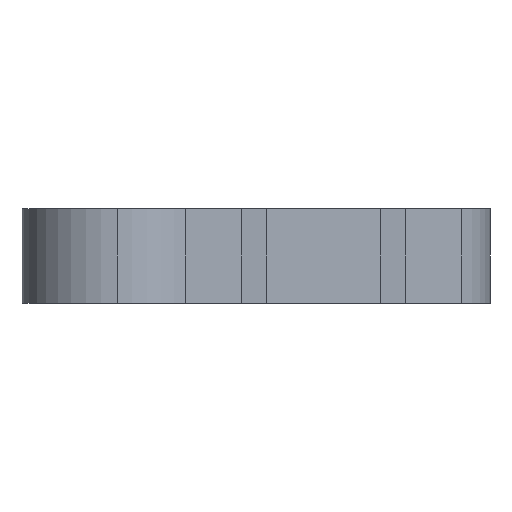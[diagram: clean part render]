
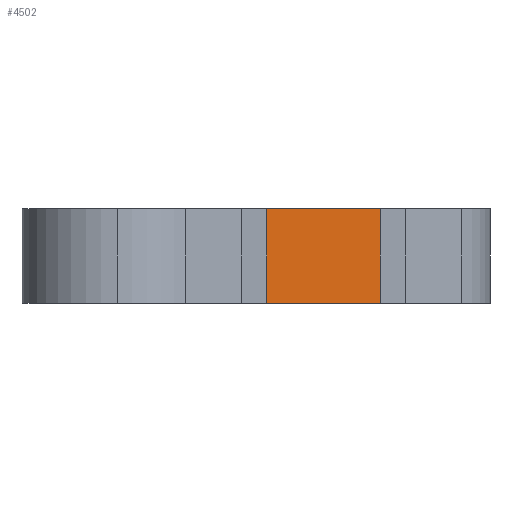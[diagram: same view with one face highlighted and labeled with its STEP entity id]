
A CAD part, left-side view. The second image highlights one B-rep face of the part: STEP entity #4502.
In plain terms, the highlighted planar face has unit normal (-0.707, -0.707, 0).
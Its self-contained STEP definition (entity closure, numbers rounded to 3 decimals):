
#208 = VECTOR ( 'NONE', #7680, 1000. ) ;
#240 = EDGE_LOOP ( 'NONE', ( #2201, #4096, #8588, #537 ) ) ;
#262 = VERTEX_POINT ( 'NONE', #3919 ) ;
#276 = DIRECTION ( 'NONE',  ( 0.707, 0.707, 0. ) ) ;
#537 = ORIENTED_EDGE ( 'NONE', *, *, #6657, .F. ) ;
#646 = VECTOR ( 'NONE', #7260, 1000. ) ;
#862 = VECTOR ( 'NONE', #4053, 1000. ) ;
#929 = FACE_OUTER_BOUND ( 'NONE', #240, .T. ) ;
#989 = LINE ( 'NONE', #3555, #1530 ) ;
#1040 = CARTESIAN_POINT ( 'NONE',  ( -9.674, 0.906, -3.05 ) ) ;
#1065 = CARTESIAN_POINT ( 'NONE',  ( -22.345, 13.576, 3.05 ) ) ;
#1530 = VECTOR ( 'NONE', #8213, 1000. ) ;
#1888 = EDGE_CURVE ( 'NONE', #5701, #8567, #989, .T. ) ;
#1936 = LINE ( 'NONE', #4732, #646 ) ;
#2201 = ORIENTED_EDGE ( 'NONE', *, *, #3488, .T. ) ;
#2973 = PLANE ( 'NONE',  #5170 ) ;
#3232 = VERTEX_POINT ( 'NONE', #5855 ) ;
#3488 = EDGE_CURVE ( 'NONE', #3232, #5701, #7364, .T. ) ;
#3555 = CARTESIAN_POINT ( 'NONE',  ( -22.345, 13.576, -3.05 ) ) ;
#3919 = CARTESIAN_POINT ( 'NONE',  ( -9.674, 0.906, 3.05 ) ) ;
#3965 = CARTESIAN_POINT ( 'NONE',  ( -17.054, 8.286, 3.051 ) ) ;
#4053 = DIRECTION ( 'NONE',  ( 0., 0., -1. ) ) ;
#4096 = ORIENTED_EDGE ( 'NONE', *, *, #1888, .T. ) ;
#4502 = ADVANCED_FACE ( 'NONE', ( #929 ), #2973, .F. ) ;
#4732 = CARTESIAN_POINT ( 'NONE',  ( -9.674, 0.906, 3.051 ) ) ;
#5170 = AXIS2_PLACEMENT_3D ( 'NONE', #6237, #276, #7588 ) ;
#5701 = VERTEX_POINT ( 'NONE', #6881 ) ;
#5855 = CARTESIAN_POINT ( 'NONE',  ( -17.054, 8.286, 3.05 ) ) ;
#6237 = CARTESIAN_POINT ( 'NONE',  ( -4.384, -4.384, 1. ) ) ;
#6657 = EDGE_CURVE ( 'NONE', #3232, #262, #6989, .T. ) ;
#6881 = CARTESIAN_POINT ( 'NONE',  ( -17.054, 8.286, -3.05 ) ) ;
#6989 = LINE ( 'NONE', #1065, #208 ) ;
#7260 = DIRECTION ( 'NONE',  ( 0., 0., -1. ) ) ;
#7364 = LINE ( 'NONE', #3965, #862 ) ;
#7588 = DIRECTION ( 'NONE',  ( -0.707, 0.707, 0. ) ) ;
#7618 = EDGE_CURVE ( 'NONE', #262, #8567, #1936, .T. ) ;
#7680 = DIRECTION ( 'NONE',  ( 0.707, -0.707, 0. ) ) ;
#8213 = DIRECTION ( 'NONE',  ( 0.707, -0.707, 0. ) ) ;
#8567 = VERTEX_POINT ( 'NONE', #1040 ) ;
#8588 = ORIENTED_EDGE ( 'NONE', *, *, #7618, .F. ) ;
